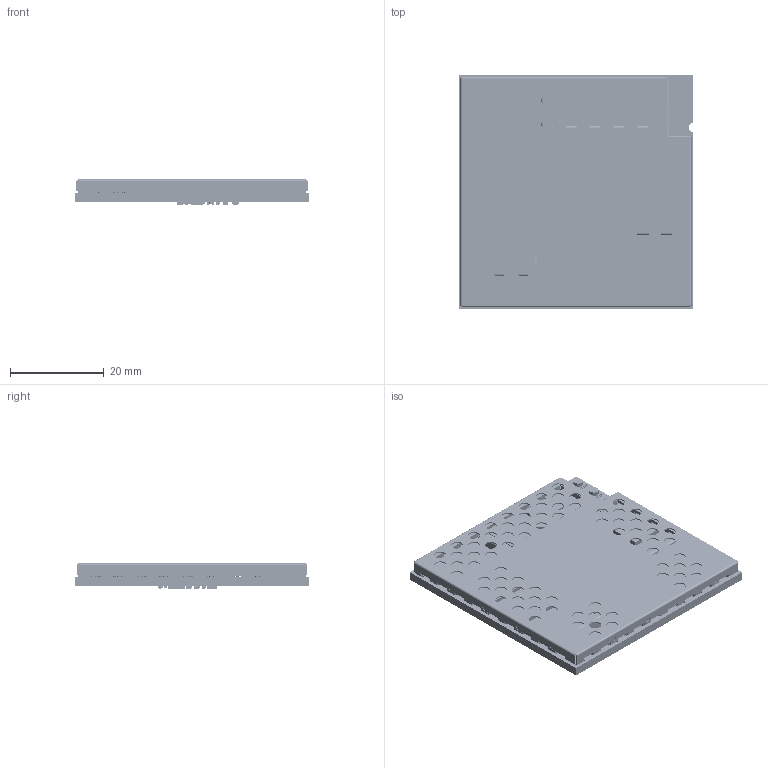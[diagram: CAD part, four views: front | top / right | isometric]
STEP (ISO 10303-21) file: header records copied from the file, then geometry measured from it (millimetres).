
FILE_DESCRIPTION (( 'STEP AP214' ), '1' );
FILE_NAME ('i.MX6x-SMT -no cavity-stripped.STEP', '2014-09-16T15:58:50', ( '' ), ( '' ), 'SwSTEP 2.0', 'SolidWorks 2014', '' );
FILE_SCHEMA (( 'AUTOMOTIVE_DESIGN' ));
Length unit declared in the file: inch
Products named in the file (107): 510858848; C156; User_Library-96-FBGA_(14X9); U12; C223; C217; Extruded; 510852192; U1; U13; C224; C216; no cavity board with pins; Extruded_39; 510857440; 510854880; C225; J2; 510852064; Extruded_19; Extruded_56; C226; J3; i.MX6x-SMT -no cavity-stripped; Extruded_38; 510857312; C208; C227; 511550688; C159; Extruded_18; C207; C230; Cylinder_11; C160; C88; C205; C233; 511549608; 60001376-01-B-pins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
Assembly tree (214 placements, depth 4):
  i.MX6x-SMT -no cavity-stripped
    no cavity board with pins
    L21
      510858848  x2
        Extruded
      510858976
        Extruded_2
    C215
      510850528
        Extruded_4
      510850400  x2
        Extruded_3
    C88
      510851680  x2
        Extruded_14
      510851936
        Extruded_15
    U1
      510857312
        Extruded_18
      510857440
        Extruded_19
    U6
      User_Library-96-FBGA_(14X9)
    U5  x2
      User_Library-96-FBGA_(14X9)
    U9
      510856544
        Extruded_24
    C240
      510851040  x2
        Extruded_30
      510851296
        Extruded_31
    C239
      510851680  x2
        Extruded_14
      510851936
        Extruded_15
    C238
      510851040  x2
        Extruded_30
      510851296
        Extruded_31
    C233
      510851680  x2
        Extruded_14
      510851936
        Extruded_15
    C230
      510851040  x2
        Extruded_30
      510851296
        Extruded_31
    C227
      510851680  x2
        Extruded_14
      510851936
        Extruded_15
    C226
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Bounding box: 50 x 50 x 5.37 mm (x, y, z)
Volume: 6956.8 mm3; surface area: 16861.7 mm2
Topology: 133 solids, 138 shells, 5514 faces, 13309 edges, 7149 vertices
Faces by surface type: plane 2258, cylinder 2058, bspline 1198
Entity records: 116729 total; most frequent: CARTESIAN_POINT 20134, DIRECTION 14816, ORIENTED_EDGE 12902, EDGE_CURVE 6453, AXIS2_PLACEMENT_3D 5547, VERTEX_POINT 4177, VECTOR 3722, LINE 3722
